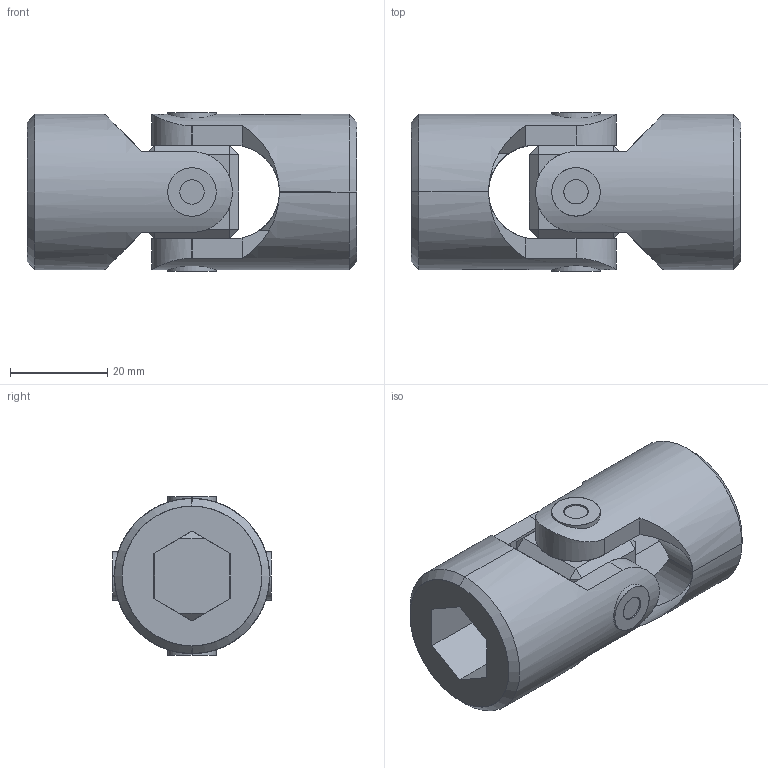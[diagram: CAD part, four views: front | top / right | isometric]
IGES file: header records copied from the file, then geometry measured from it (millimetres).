
Start section: SolidWorks IGES file using analytic representation for surfaces
Global section: file name: C:\Users\IanO\Desktop\R3690_v2\R3690_v2_20231020_IGES\R3690.016-HB.igs; native system: SolidWorks 2019; preprocessor: SolidWorks 2019; author: IanO; date: 231020.152726; units: millimetre
Bounding box: 68 x 32.64 x 32.64 mm (x, y, z)
Surface area: 16348.5 mm2 (no closed solid volume)
Topology: 0 solids, 0 shells, 112 faces, 2168 edges, 2168 vertices
Faces by surface type: bspline 68, revolution 44
